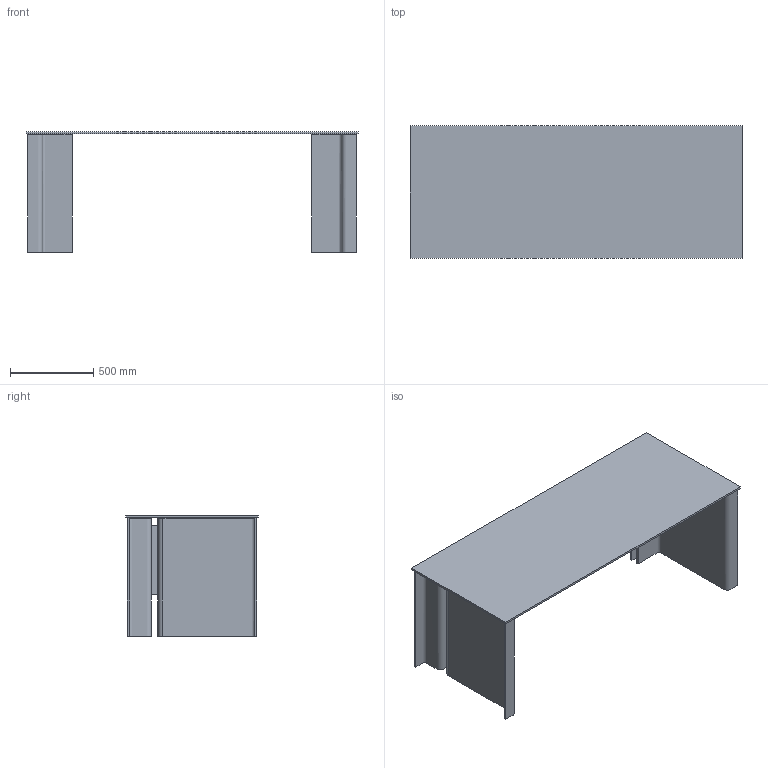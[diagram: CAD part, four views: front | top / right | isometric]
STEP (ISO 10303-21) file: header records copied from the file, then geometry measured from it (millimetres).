
FILE_DESCRIPTION(/* description */ (''),/* implementation_level */ '2;1');
FILE_NAME(/* name */ 'S1337 - Luminare Scrivania 200x80',/* time_stamp */ '2010-12-10T09:53:25+01:00',/* author */ (''),/* organization */ (''),/* preprocessor_version */ 'ST-DEVELOPER v10',/* originating_system */ '',/* authorisation */ '');
FILE_SCHEMA (('CONFIG_CONTROL_DESIGN'));
Length unit declared in the file: centimetre
Products named in the file (1): 1
Bounding box: 2000 x 800 x 726 mm (x, y, z)
Volume: 19881989.3 mm3; surface area: 6876627.3 mm2
Topology: 17 solids, 21 shells, 92 faces, 174 edges, 116 vertices
Faces by surface type: plane 54, bspline 38
Entity records: 2788 total; most frequent: CARTESIAN_POINT 1513, ORIENTED_EDGE 312, EDGE_CURVE 174, VERTEX_POINT 116, B_SPLINE_CURVE_WITH_KNOTS 98, ADVANCED_FACE 92, FACE_OUTER_BOUND 92, EDGE_LOOP 92
